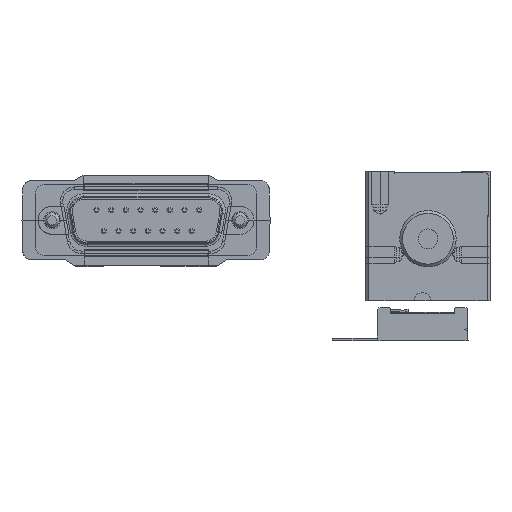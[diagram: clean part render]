
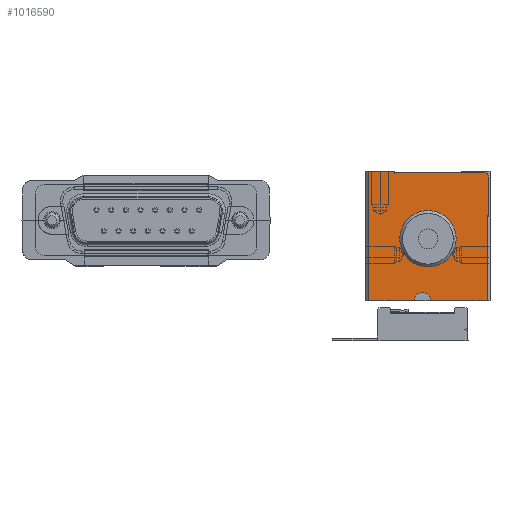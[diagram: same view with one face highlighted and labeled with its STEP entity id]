
A CAD part, front view. The second image highlights one B-rep face of the part: STEP entity #1016590.
In plain terms, the highlighted planar face has unit normal (0, -1, 0) as drawn and (1, 0, 0) by its records, which use the part's own axes.
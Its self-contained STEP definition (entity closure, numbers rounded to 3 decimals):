
#1007910=CARTESIAN_POINT('',(40.,22.,0.));
#1007920=DIRECTION('',(0.,-1.,0.));
#1007930=VECTOR('',#1007920,1.);
#1007940=LINE('',#1007910,#1007930);
#1007950=CARTESIAN_POINT('',(40.,5.,0.));
#1007960=VERTEX_POINT('',#1007950);
#1007970=CARTESIAN_POINT('',(40.,0.5,0.));
#1007980=VERTEX_POINT('',#1007970);
#1007990=EDGE_CURVE('',#1007960,#1007980,#1007940,.T.);
#1010860=CARTESIAN_POINT('',(40.,0.5,-23.));
#1010870=VERTEX_POINT('',#1010860);
#1010900=CARTESIAN_POINT('',(40.,0.,-23.));
#1010910=DIRECTION('',(0.,1.,0.));
#1010920=VECTOR('',#1010910,1.);
#1010930=LINE('',#1010900,#1010920);
#1010940=CARTESIAN_POINT('',(40.,8.6,-23.));
#1010950=VERTEX_POINT('',#1010940);
#1010960=EDGE_CURVE('',#1010870,#1010950,#1010930,.T.);
#1011180=CARTESIAN_POINT('',(40.,11.4,-23.));
#1011190=VERTEX_POINT('',#1011180);
#1011220=CARTESIAN_POINT('',(40.,21.5,-23.));
#1011230=VERTEX_POINT('',#1011220);
#1011240=EDGE_CURVE('',#1011190,#1011230,#1010930,.T.);
#1013160=CARTESIAN_POINT('',(40.,11.4,0.));
#1013170=DIRECTION('',(0.,0.,1.));
#1013180=VECTOR('',#1013170,1.);
#1013190=LINE('',#1013160,#1013180);
#1013200=CARTESIAN_POINT('',(40.,11.4,-22.8));
#1013210=VERTEX_POINT('',#1013200);
#1013220=EDGE_CURVE('',#1011190,#1013210,#1013190,.T.);
#1013890=CARTESIAN_POINT('',(40.,9.8,-22.8));
#1013900=DIRECTION('',(-1.,0.,0.));
#1013910=DIRECTION('',(0.,1.,0.));
#1013920=AXIS2_PLACEMENT_3D('',#1013890,#1013900,#1013910);
#1013930=CIRCLE('',#1013920,1.2);
#1013940=CARTESIAN_POINT('',(40.,8.6,-22.8));
#1013950=VERTEX_POINT('',#1013940);
#1013960=CARTESIAN_POINT('',(40.,9.8,-21.6));
#1013970=VERTEX_POINT('',#1013960);
#1013980=EDGE_CURVE('',#1013950,#1013970,#1013930,.T.);
#1014210=CARTESIAN_POINT('',(40.,0.,-21.6));
#1014220=DIRECTION('',(0.,-1.,0.));
#1014230=VECTOR('',#1014220,1.);
#1014240=LINE('',#1014210,#1014230);
#1014250=CARTESIAN_POINT('',(40.,10.2,-21.6));
#1014260=VERTEX_POINT('',#1014250);
#1014270=EDGE_CURVE('',#1014260,#1013970,#1014240,.T.);
#1014470=CARTESIAN_POINT('',(40.,10.2,-22.8));
#1014480=DIRECTION('',(-1.,0.,0.));
#1014490=DIRECTION('',(0.,1.,0.));
#1014500=AXIS2_PLACEMENT_3D('',#1014470,#1014480,#1014490);
#1014510=CIRCLE('',#1014500,1.2);
#1014520=EDGE_CURVE('',#1014260,#1013210,#1014510,.T.);
#1014650=CARTESIAN_POINT('',(40.,8.6,0.));
#1014660=DIRECTION('',(0.,0.,-1.));
#1014670=VECTOR('',#1014660,1.);
#1014680=LINE('',#1014650,#1014670);
#1014690=EDGE_CURVE('',#1013950,#1010950,#1014680,.T.);
#1014800=CARTESIAN_POINT('',(40.,5.846,-7.9));
#1014810=DIRECTION('',(0.,-1.,0.));
#1014820=VECTOR('',#1014810,1.);
#1014830=LINE('',#1014800,#1014820);
#1014840=CARTESIAN_POINT('',(40.,21.8,-7.9));
#1014850=VERTEX_POINT('',#1014840);
#1014860=CARTESIAN_POINT('',(40.,21.5,-7.9));
#1014870=VERTEX_POINT('',#1014860);
#1014880=EDGE_CURVE('',#1014850,#1014870,#1014830,.T.);
#1015610=CARTESIAN_POINT('',(40.,0.1,-0.8))
;
#1015620=DIRECTION('',(1.,-0.,0.));
#1015630=DIRECTION('',(0.,0.,-1.));
#1015640=AXIS2_PLACEMENT_3D('',#1015610,#1015620,#1015630);
#1015650=PLANE('',#1015640);
#1015660=CARTESIAN_POINT('',(40.,20.9,-1.1));
#1015670=DIRECTION('',(1.,0.,0.));
#1015680=DIRECTION('',(0.,-1.,0.));
#1015690=AXIS2_PLACEMENT_3D('',#1015660,#1015670,#1015680);
#1015700=CIRCLE('',#1015690,0.9);
#1015710=CARTESIAN_POINT('',(40.,21.8,-1.1));
#1015720=VERTEX_POINT('',#1015710);
#1015730=CARTESIAN_POINT('',(40.,20.9,-0.2));
#1015740=VERTEX_POINT('',#1015730);
#1015750=EDGE_CURVE('',#1015720,#1015740,#1015700,.T.);
#1015760=ORIENTED_EDGE('',*,*,#1015750,.T.);
#1015770=CARTESIAN_POINT('',(40.,21.8,-0.8));
#1015780=DIRECTION('',(0.,0.,1.));
#1015790=VECTOR('',#1015780,1.);
#1015800=LINE('',#1015770,#1015790);
#1015810=EDGE_CURVE('',#1014850,#1015720,#1015800,.T.);
#1015820=ORIENTED_EDGE('',*,*,#1015810,.T.);
#1015830=ORIENTED_EDGE('',*,*,#1014880,.F.);
#1015840=CARTESIAN_POINT('',(40.,21.5,0.));
#1015850=DIRECTION('',(0.,0.,1.));
#1015860=VECTOR('',#1015850,1.);
#1015870=LINE('',#1015840,#1015860);
#1015880=CARTESIAN_POINT('',(40.,21.5,-8.));
#1015890=VERTEX_POINT('',#1015880);
#1015900=EDGE_CURVE('',#1015890,#1014870,#1015870,.T.);
#1015910=ORIENTED_EDGE('',*,*,#1015900,.T.);
#1015920=CARTESIAN_POINT('',(40.,21.5,-15.5));
#1015930=DIRECTION('',(0.,0.,-1.));
#1015940=VECTOR('',#1015930,1.);
#1015950=LINE('',#1015920,#1015940);
#1015960=EDGE_CURVE('',#1015890,#1011230,#1015950,.T.);
#1015970=ORIENTED_EDGE('',*,*,#1015960,.F.);
#1015980=ORIENTED_EDGE('',*,*,#1011240,.T.);
#1015990=ORIENTED_EDGE('',*,*,#1013220,.F.);
#1016000=ORIENTED_EDGE('',*,*,#1014520,.T.);
#1016010=ORIENTED_EDGE('',*,*,#1014270,.F.);
#1016020=ORIENTED_EDGE('',*,*,#1013980,.T.);
#1016030=ORIENTED_EDGE('',*,*,#1014690,.F.);
#1016040=ORIENTED_EDGE('',*,*,#1010960,.T.);
#1016050=CARTESIAN_POINT('',(40.,0.5,-11.5));
#1016060=DIRECTION('',(0.,0.,-1.));
#1016070=VECTOR('',#1016060,1.);
#1016080=LINE('',#1016050,#1016070);
#1016090=EDGE_CURVE('',#1007980,#1010870,#1016080,.T.);
#1016100=ORIENTED_EDGE('',*,*,#1016090,.T.);
#1016110=ORIENTED_EDGE('',*,*,#1007990,.T.);
#1016120=CARTESIAN_POINT('',(40.,5.,0.));
#1016130=DIRECTION('',(0.,0.,-1.));
#1016140=VECTOR('',#1016130,1.);
#1016150=LINE('',#1016120,#1016140);
#1016160=CARTESIAN_POINT('',(40.,5.,-0.5));
#1016170=VERTEX_POINT('',#1016160);
#1016180=EDGE_CURVE('',#1007960,#1016170,#1016150,.T.);
#1016190=ORIENTED_EDGE('',*,*,#1016180,.F.);
#1016200=CARTESIAN_POINT('',(40.,0.,-0.5));
#1016210=DIRECTION('',(0.,-1.,0.));
#1016220=VECTOR('',#1016210,1.);
#1016230=LINE('',#1016200,#1016220);
#1016240=CARTESIAN_POINT('',(40.,5.05,-0.5));
#1016250=VERTEX_POINT('',#1016240);
#1016260=EDGE_CURVE('',#1016250,#1016170,#1016230,.T.);
#1016270=ORIENTED_EDGE('',*,*,#1016260,.T.);
#1016280=CARTESIAN_POINT('',(40.,5.05,-0.8));
#1016290=DIRECTION('',(0.,0.,1.));
#1016300=VECTOR('',#1016290,1.);
#1016310=LINE('',#1016280,#1016300);
#1016320=CARTESIAN_POINT('',(40.,5.05,-0.2));
#1016330=VERTEX_POINT('',#1016320);
#1016340=EDGE_CURVE('',#1016250,#1016330,#1016310,.T.);
#1016350=ORIENTED_EDGE('',*,*,#1016340,.F.);
#1016360=CARTESIAN_POINT('',(40.,5.646,-0.2));
#1016370=DIRECTION('',(0.,1.,0.));
#1016380=VECTOR('',#1016370,1.);
#1016390=LINE('',#1016360,#1016380);
#1016400=EDGE_CURVE('',#1016330,#1015740,#1016390,.T.);
#1016410=ORIENTED_EDGE('',*,*,#1016400,.F.);
#1016420=EDGE_LOOP('',(#1016410,#1016350,#1016270,#1016190,#1016110,
#1016100,#1016040,#1016030,#1016020,#1016010,#1016000,#1015990,#1015980,
#1015970,#1015910,#1015830,#1015820,#1015760));
#1016430=FACE_OUTER_BOUND('',#1016420,.T.);
#1016440=CARTESIAN_POINT('',(40.,11.,-12.));
#1016450=DIRECTION('',(1.,0.,0.));
#1016460=DIRECTION('',(0.,1.,0.));
#1016470=AXIS2_PLACEMENT_3D('',#1016440,#1016450,#1016460);
#1016480=CIRCLE('',#1016470,5.);
#1016490=CARTESIAN_POINT('',(40.,16.,-12.));
#1016500=VERTEX_POINT('',#1016490);
#1016510=CARTESIAN_POINT('',(40.,6.,-12.));
#1016520=VERTEX_POINT('',#1016510);
#1016530=EDGE_CURVE('',#1016500,#1016520,#1016480,.T.);
#1016540=ORIENTED_EDGE('',*,*,#1016530,.F.);
#1016550=EDGE_CURVE('',#1016520,#1016500,#1016480,.T.);
#1016560=ORIENTED_EDGE('',*,*,#1016550,.F.);
#1016570=EDGE_LOOP('',(#1016560,#1016540));
#1016580=FACE_BOUND('',#1016570,.T.);
#1016590=ADVANCED_FACE('',(#1016430,#1016580),#1015650,.T.);
